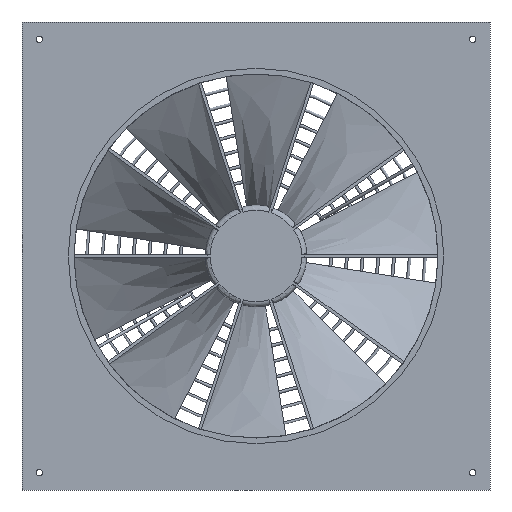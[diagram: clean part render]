
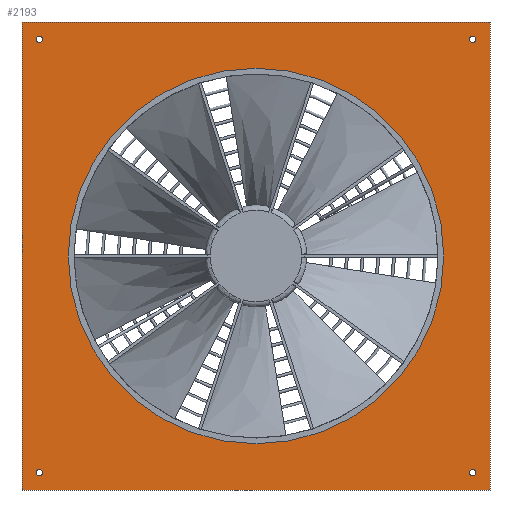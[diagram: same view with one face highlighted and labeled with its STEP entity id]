
A CAD part, front view. The second image highlights one B-rep face of the part: STEP entity #2193.
In plain terms, the highlighted planar face has unit normal (0, -1, 0).
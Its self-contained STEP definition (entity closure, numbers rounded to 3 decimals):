
#58=FACE_BOUND('',#626,.T.);
#59=FACE_BOUND('',#627,.T.);
#60=FACE_BOUND('',#628,.T.);
#61=FACE_BOUND('',#629,.T.);
#62=FACE_BOUND('',#630,.T.);
#84=PLANE('',#2419);
#248=LINE('',#3894,#338);
#250=LINE('',#3901,#340);
#252=LINE('',#3907,#342);
#253=LINE('',#3909,#343);
#338=VECTOR('',#2722,10.);
#340=VECTOR('',#2730,10.);
#342=VECTOR('',#2736,10.);
#343=VECTOR('',#2739,10.);
#505=FACE_OUTER_BOUND('',#625,.T.);
#625=EDGE_LOOP('',(#1740,#1741,#1742,#1743));
#626=EDGE_LOOP('',(#1744,#1745));
#627=EDGE_LOOP('',(#1746,#1747));
#628=EDGE_LOOP('',(#1748,#1749));
#629=EDGE_LOOP('',(#1750,#1751));
#630=EDGE_LOOP('',(#1752));
#762=CIRCLE('',#2402,5.5);
#763=CIRCLE('',#2403,5.5);
#764=CIRCLE('',#2405,5.5);
#765=CIRCLE('',#2406,5.5);
#766=CIRCLE('',#2408,5.5);
#767=CIRCLE('',#2409,5.5);
#768=CIRCLE('',#2411,5.5);
#769=CIRCLE('',#2412,5.5);
#771=CIRCLE('',#2415,325.);
#917=VERTEX_POINT('',#3891);
#918=VERTEX_POINT('',#3893);
#920=VERTEX_POINT('',#3899);
#922=VERTEX_POINT('',#3905);
#927=VERTEX_POINT('',#3921);
#928=VERTEX_POINT('',#3922);
#929=VERTEX_POINT('',#3927);
#930=VERTEX_POINT('',#3928);
#931=VERTEX_POINT('',#3933);
#932=VERTEX_POINT('',#3934);
#933=VERTEX_POINT('',#3939);
#934=VERTEX_POINT('',#3940);
#936=VERTEX_POINT('',#3947);
#1205=EDGE_CURVE('',#918,#917,#248,.T.);
#1209=EDGE_CURVE('',#917,#920,#250,.T.);
#1212=EDGE_CURVE('',#920,#922,#252,.T.);
#1213=EDGE_CURVE('',#922,#918,#253,.T.);
#1219=EDGE_CURVE('',#927,#928,#762,.T.);
#1220=EDGE_CURVE('',#928,#927,#763,.T.);
#1222=EDGE_CURVE('',#929,#930,#764,.T.);
#1223=EDGE_CURVE('',#930,#929,#765,.T.);
#1225=EDGE_CURVE('',#931,#932,#766,.T.);
#1226=EDGE_CURVE('',#932,#931,#767,.T.);
#1228=EDGE_CURVE('',#933,#934,#768,.T.);
#1229=EDGE_CURVE('',#934,#933,#769,.T.);
#1233=EDGE_CURVE('',#936,#936,#771,.T.);
#1740=ORIENTED_EDGE('',*,*,#1205,.T.);
#1741=ORIENTED_EDGE('',*,*,#1209,.T.);
#1742=ORIENTED_EDGE('',*,*,#1212,.T.);
#1743=ORIENTED_EDGE('',*,*,#1213,.T.);
#1744=ORIENTED_EDGE('',*,*,#1219,.T.);
#1745=ORIENTED_EDGE('',*,*,#1220,.T.);
#1746=ORIENTED_EDGE('',*,*,#1222,.T.);
#1747=ORIENTED_EDGE('',*,*,#1223,.T.);
#1748=ORIENTED_EDGE('',*,*,#1225,.T.);
#1749=ORIENTED_EDGE('',*,*,#1226,.T.);
#1750=ORIENTED_EDGE('',*,*,#1228,.T.);
#1751=ORIENTED_EDGE('',*,*,#1229,.T.);
#1752=ORIENTED_EDGE('',*,*,#1233,.T.);
#2193=ADVANCED_FACE('',(#505,#58,#59,#60,#61,#62),#84,.F.);
#2402=AXIS2_PLACEMENT_3D('',#3923,#2753,#2754);
#2403=AXIS2_PLACEMENT_3D('',#3924,#2755,#2756);
#2405=AXIS2_PLACEMENT_3D('',#3929,#2760,#2761);
#2406=AXIS2_PLACEMENT_3D('',#3930,#2762,#2763);
#2408=AXIS2_PLACEMENT_3D('',#3935,#2767,#2768);
#2409=AXIS2_PLACEMENT_3D('',#3936,#2769,#2770);
#2411=AXIS2_PLACEMENT_3D('',#3941,#2774,#2775);
#2412=AXIS2_PLACEMENT_3D('',#3942,#2776,#2777);
#2415=AXIS2_PLACEMENT_3D('',#3949,#2784,#2785);
#2419=AXIS2_PLACEMENT_3D('',#3953,#2792,#2793);
#2722=DIRECTION('',(1.,0.,0.));
#2730=DIRECTION('',(0.,0.,1.));
#2736=DIRECTION('',(-1.,0.,0.));
#2739=DIRECTION('',(0.,0.,-1.));
#2753=DIRECTION('center_axis',(0.,1.,0.));
#2754=DIRECTION('ref_axis',(1.,0.,0.));
#2755=DIRECTION('center_axis',(0.,1.,0.));
#2756=DIRECTION('ref_axis',(1.,0.,0.));
#2760=DIRECTION('center_axis',(0.,1.,0.));
#2761=DIRECTION('ref_axis',(1.,0.,0.));
#2762=DIRECTION('center_axis',(0.,1.,0.));
#2763=DIRECTION('ref_axis',(1.,0.,0.));
#2767=DIRECTION('center_axis',(0.,1.,0.));
#2768=DIRECTION('ref_axis',(1.,0.,0.));
#2769=DIRECTION('center_axis',(0.,1.,0.));
#2770=DIRECTION('ref_axis',(1.,0.,0.));
#2774=DIRECTION('center_axis',(0.,1.,0.));
#2775=DIRECTION('ref_axis',(1.,0.,0.));
#2776=DIRECTION('center_axis',(0.,1.,0.));
#2777=DIRECTION('ref_axis',(1.,0.,0.));
#2784=DIRECTION('center_axis',(0.,1.,0.));
#2785=DIRECTION('ref_axis',(-1.,0.,0.));
#2792=DIRECTION('center_axis',(0.,1.,0.));
#2793=DIRECTION('ref_axis',(0.,0.,1.));
#3891=CARTESIAN_POINT('',(405.,0.,-405.));
#3893=CARTESIAN_POINT('',(-405.,0.,-405.));
#3894=CARTESIAN_POINT('',(-405.,0.,-405.));
#3899=CARTESIAN_POINT('',(405.,0.,405.));
#3901=CARTESIAN_POINT('',(405.,0.,-405.));
#3905=CARTESIAN_POINT('',(-405.,0.,405.));
#3907=CARTESIAN_POINT('',(405.,0.,405.));
#3909=CARTESIAN_POINT('',(-405.,0.,405.));
#3921=CARTESIAN_POINT('',(-369.5,0.,-375.));
#3922=CARTESIAN_POINT('',(-380.5,0.,-375.));
#3923=CARTESIAN_POINT('Origin',(-375.,0.,-375.));
#3924=CARTESIAN_POINT('Origin',(-375.,0.,-375.));
#3927=CARTESIAN_POINT('',(380.5,0.,375.));
#3928=CARTESIAN_POINT('',(369.5,0.,375.));
#3929=CARTESIAN_POINT('Origin',(375.,0.,375.));
#3930=CARTESIAN_POINT('Origin',(375.,0.,375.));
#3933=CARTESIAN_POINT('',(380.5,0.,-375.));
#3934=CARTESIAN_POINT('',(369.5,0.,-375.));
#3935=CARTESIAN_POINT('Origin',(375.,0.,-375.));
#3936=CARTESIAN_POINT('Origin',(375.,0.,-375.));
#3939=CARTESIAN_POINT('',(-369.5,0.,375.));
#3940=CARTESIAN_POINT('',(-380.5,0.,375.));
#3941=CARTESIAN_POINT('Origin',(-375.,0.,375.));
#3942=CARTESIAN_POINT('Origin',(-375.,0.,375.));
#3947=CARTESIAN_POINT('',(325.,0.,0.));
#3949=CARTESIAN_POINT('Origin',(0.,0.,0.));
#3953=CARTESIAN_POINT('Origin',(0.,0.,0.));
